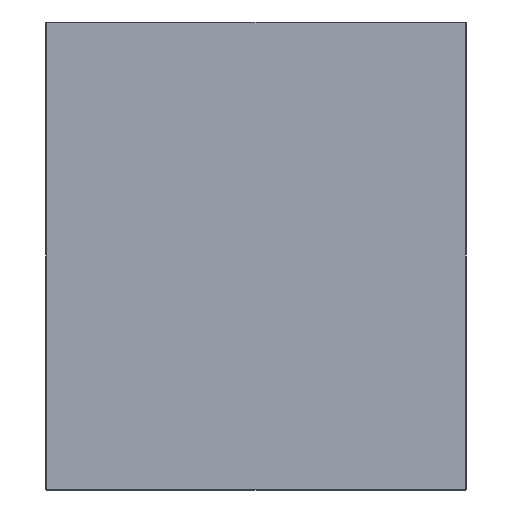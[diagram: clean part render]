
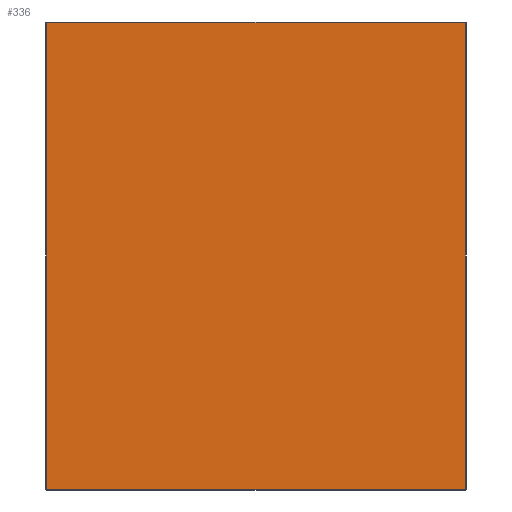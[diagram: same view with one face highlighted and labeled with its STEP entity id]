
A CAD part, front view. The second image highlights one B-rep face of the part: STEP entity #336.
In plain terms, the highlighted planar face has unit normal (0, -1, 0).
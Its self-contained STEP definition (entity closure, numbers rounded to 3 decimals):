
#12 = CARTESIAN_POINT ( 'NONE',  ( 0., 0., 247. ) ) ;
#43 = VERTEX_POINT ( 'NONE', #109 ) ;
#109 = CARTESIAN_POINT ( 'NONE',  ( -222., 0., 247. ) ) ;
#116 = ORIENTED_EDGE ( 'NONE', *, *, #602, .T. ) ;
#128 = LINE ( 'NONE', #312, #412 ) ;
#142 = ORIENTED_EDGE ( 'NONE', *, *, #576, .T. ) ;
#172 = DIRECTION ( 'NONE',  ( 0., 1., 0. ) ) ;
#182 = LINE ( 'NONE', #303, #600 ) ;
#242 = PLANE ( 'NONE',  #300 ) ;
#245 = CARTESIAN_POINT ( 'NONE',  ( -222., 0., -247. ) ) ;
#260 = VECTOR ( 'NONE', #506, 1000. ) ;
#272 = DIRECTION ( 'NONE',  ( 0., 0., -1. ) ) ;
#300 = AXIS2_PLACEMENT_3D ( 'NONE', #439, #172, #632 ) ;
#301 = ORIENTED_EDGE ( 'NONE', *, *, #496, .T. ) ;
#303 = CARTESIAN_POINT ( 'NONE',  ( 222., 0., 0. ) ) ;
#312 = CARTESIAN_POINT ( 'NONE',  ( -222., 0., 0. ) ) ;
#314 = VECTOR ( 'NONE', #483, 1000. ) ;
#317 = VERTEX_POINT ( 'NONE', #472 ) ;
#336 = ADVANCED_FACE ( 'NONE', ( #482 ), #242, .F. ) ;
#364 = EDGE_LOOP ( 'NONE', ( #301, #116, #142, #606 ) ) ;
#371 = VERTEX_POINT ( 'NONE', #245 ) ;
#412 = VECTOR ( 'NONE', #272, 1000. ) ;
#428 = LINE ( 'NONE', #485, #314 ) ;
#439 = CARTESIAN_POINT ( 'NONE',  ( 0., 0., 0. ) ) ;
#472 = CARTESIAN_POINT ( 'NONE',  ( 222., 0., 247. ) ) ;
#482 = FACE_OUTER_BOUND ( 'NONE', #364, .T. ) ;
#483 = DIRECTION ( 'NONE',  ( 1., 0., 0. ) ) ;
#485 = CARTESIAN_POINT ( 'NONE',  ( 0., 0., -247. ) ) ;
#496 = EDGE_CURVE ( 'NONE', #518, #317, #182, .T. ) ;
#505 = LINE ( 'NONE', #12, #260 ) ;
#506 = DIRECTION ( 'NONE',  ( -1., 0., 0. ) ) ;
#518 = VERTEX_POINT ( 'NONE', #520 ) ;
#520 = CARTESIAN_POINT ( 'NONE',  ( 222., 0., -247. ) ) ;
#572 = EDGE_CURVE ( 'NONE', #371, #518, #428, .T. ) ;
#576 = EDGE_CURVE ( 'NONE', #43, #371, #128, .T. ) ;
#597 = DIRECTION ( 'NONE',  ( 0., 0., 1. ) ) ;
#600 = VECTOR ( 'NONE', #597, 1000. ) ;
#602 = EDGE_CURVE ( 'NONE', #317, #43, #505, .T. ) ;
#606 = ORIENTED_EDGE ( 'NONE', *, *, #572, .T. ) ;
#632 = DIRECTION ( 'NONE',  ( 0., 0., 1. ) ) ;
